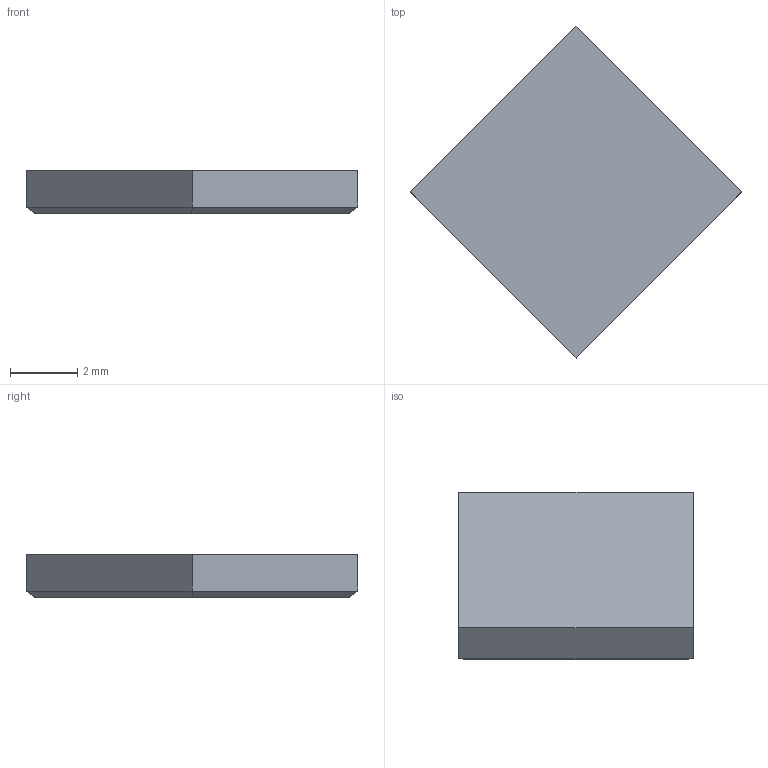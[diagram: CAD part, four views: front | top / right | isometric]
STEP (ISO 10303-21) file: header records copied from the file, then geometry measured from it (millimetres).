
FILE_DESCRIPTION(/* description */ ('STEP AP242 Edition 2','CAx-IF Rec.Pracs.---Representation and Presentation of Product Manufacturing Information (PMI)---4.0---2014-10-13','CAx-IF Rec.Pracs.---3D Tessellated Geometry---0.4---2014-09-14','2;1','CAx-IF Rec.Pracs.---User Defined Attributes---1.5---2016-08-15'),/* implementation_level */ '2;1');
FILE_NAME(/* name */ 'Drone Layout - Surface 35',/* time_stamp */ '2026-10-04T22:22:57Z',/* author */ (''),/* organization */ (''),/* preprocessor_version */ 'ST-DEVELOPER v20',/* originating_system */ 'ONSHAPE BY PTC INC, 1.221',/* authorisation */ ' ');
FILE_SCHEMA (('AP242_MANAGED_MODEL_BASED_3D_ENGINEERING_MIM_LF { 1 0 10303 442 3 1 4 }'));
Length unit declared in the file: metre
Products named in the file (1): chip1:1__chip1
Bounding box: 9.9 x 9.9 x 1.3 mm (x, y, z)
Volume: 63.1 mm3; surface area: 131.4 mm2
Topology: 1 solids, 1 shells, 12 faces, 23 edges, 14 vertices
Faces by surface type: plane 11, cylinder 1
Full cylindrical faces by diameter (mm): 0.997 x1
Entity records: 305 total; most frequent: DIRECTION 50, CARTESIAN_POINT 49, ORIENTED_EDGE 44, EDGE_CURVE 22, LINE 20, VECTOR 20, AXIS2_PLACEMENT_3D 15, VERTEX_POINT 14
